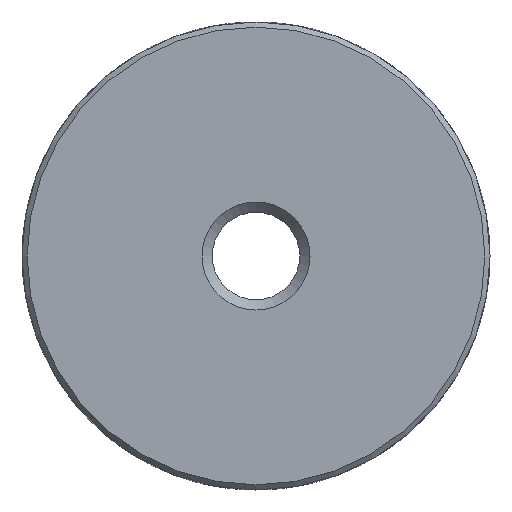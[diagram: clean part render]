
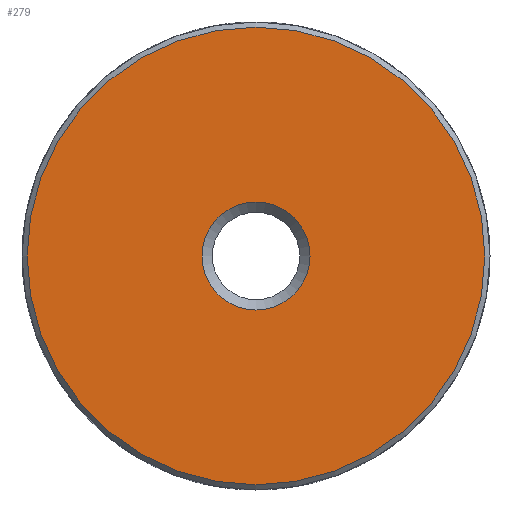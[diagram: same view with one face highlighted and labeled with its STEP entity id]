
A CAD part, front view. The second image highlights one B-rep face of the part: STEP entity #279.
In plain terms, the highlighted planar face has unit normal (0, -1, 0).
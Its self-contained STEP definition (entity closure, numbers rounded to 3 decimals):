
#19=FACE_BOUND('',#74,.T.);
#28=PLANE('',#319);
#38=CIRCLE('',#318,22.25);
#39=CIRCLE('',#320,5.25);
#55=FACE_OUTER_BOUND('',#73,.T.);
#73=EDGE_LOOP('',(#215));
#74=EDGE_LOOP('',(#216));
#138=VERTEX_POINT('',#528);
#139=VERTEX_POINT('',#532);
#167=EDGE_CURVE('',#138,#138,#38,.T.);
#168=EDGE_CURVE('',#139,#139,#39,.T.);
#215=ORIENTED_EDGE('',*,*,#167,.F.);
#216=ORIENTED_EDGE('',*,*,#168,.F.);
#279=ADVANCED_FACE('',(#55,#19),#28,.T.);
#318=AXIS2_PLACEMENT_3D('',#530,#376,#377);
#319=AXIS2_PLACEMENT_3D('',#531,#378,#379);
#320=AXIS2_PLACEMENT_3D('',#533,#380,#381);
#376=DIRECTION('center_axis',(0.,1.,0.));
#377=DIRECTION('ref_axis',(0.,0.,-1.));
#378=DIRECTION('center_axis',(0.,-1.,0.));
#379=DIRECTION('ref_axis',(0.,0.,-1.));
#380=DIRECTION('center_axis',(0.,-1.,0.));
#381=DIRECTION('ref_axis',(-1.,0.,0.));
#528=CARTESIAN_POINT('',(0.,-2.5,22.25));
#530=CARTESIAN_POINT('Origin',(0.,-2.5,0.));
#531=CARTESIAN_POINT('Origin',(0.,-2.5,22.75));
#532=CARTESIAN_POINT('',(5.25,-2.5,0.));
#533=CARTESIAN_POINT('Origin',(0.,-2.5,0.));
